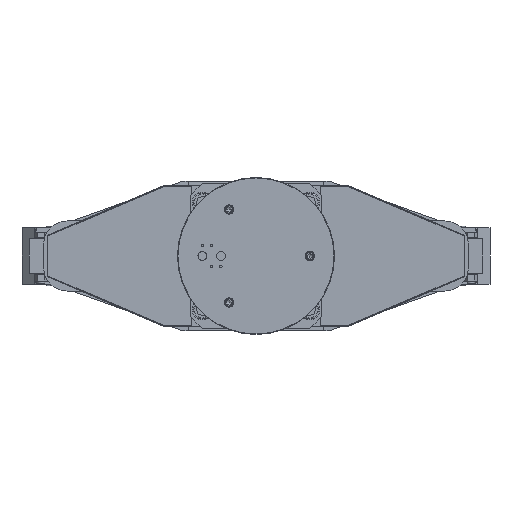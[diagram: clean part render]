
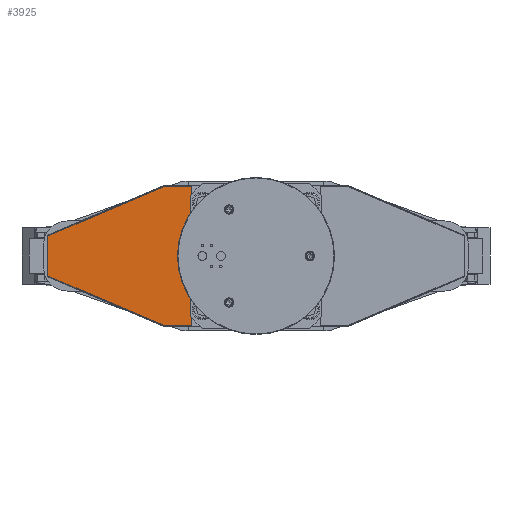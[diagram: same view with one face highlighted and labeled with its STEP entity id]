
A CAD part, left-side view. The second image highlights one B-rep face of the part: STEP entity #3925.
In plain terms, the highlighted planar face has unit normal (-1, 0, 0).
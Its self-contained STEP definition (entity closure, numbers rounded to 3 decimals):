
#3925=ADVANCED_FACE('',(#13219),#13220,.T.);
#13219=FACE_OUTER_BOUND('',#24612,.T.);
#13220=PLANE('',#24613);
#24612=EDGE_LOOP('',(#57248,#57249,#57250,#57251,#57252,#57253));
#24613=AXIS2_PLACEMENT_3D('',#57254,#57255,#57256);
#57248=ORIENTED_EDGE('',*,*,#75824,.T.);
#57249=ORIENTED_EDGE('',*,*,#76485,.F.);
#57250=ORIENTED_EDGE('',*,*,#75833,.T.);
#57251=ORIENTED_EDGE('',*,*,#75836,.T.);
#57252=ORIENTED_EDGE('',*,*,#77447,.T.);
#57253=ORIENTED_EDGE('',*,*,#75837,.F.);
#57254=CARTESIAN_POINT('',(-1285.15,291.744,-57.423));
#57255=DIRECTION('',(-1.,0.,0.));
#57256=DIRECTION('',(0.,-1.,0.));
#75824=EDGE_CURVE('',#93957,#93958,#93959,.T.);
#75833=EDGE_CURVE('',#93911,#93973,#93974,.T.);
#75836=EDGE_CURVE('',#93973,#93976,#93978,.T.);
#75837=EDGE_CURVE('',#93957,#93979,#93980,.T.);
#76485=EDGE_CURVE('',#93911,#93958,#94948,.T.);
#77447=EDGE_CURVE('',#93976,#93979,#96230,.T.);
#93911=VERTEX_POINT('',#136288);
#93957=VERTEX_POINT('',#136353);
#93958=VERTEX_POINT('',#136354);
#93959=LINE('',#136355,#136356);
#93973=VERTEX_POINT('',#136378);
#93974=LINE('',#136379,#136380);
#93976=VERTEX_POINT('',#136383);
#93978=LINE('',#136386,#136387);
#93979=VERTEX_POINT('',#136388);
#93980=LINE('',#136389,#136390);
#94948=LINE('',#137683,#137684);
#96230=LINE('',#139607,#139608);
#136288=CARTESIAN_POINT('',(-1285.15,445.719,-57.423));
#136353=CARTESIAN_POINT('',(-1285.15,195.719,134.277));
#136354=CARTESIAN_POINT('',(-1285.15,445.719,27.977));
#136355=CARTESIAN_POINT('',(-1285.15,333.396,75.737));
#136356=VECTOR('',#159349,10.);
#136378=CARTESIAN_POINT('',(-1285.15,195.719,-163.723));
#136379=CARTESIAN_POINT('',(-1285.15,318.02,-111.721));
#136380=VECTOR('',#159358,10.);
#136383=CARTESIAN_POINT('',(-1285.15,137.769,-163.723));
#136386=CARTESIAN_POINT('',(-1285.15,137.769,-163.723));
#136387=VECTOR('',#159361,10.);
#136388=CARTESIAN_POINT('',(-1285.15,137.769,134.277));
#136389=CARTESIAN_POINT('',(-1285.15,137.769,134.277));
#136390=VECTOR('',#159362,10.);
#137683=CARTESIAN_POINT('',(-1285.15,445.719,-57.423));
#137684=VECTOR('',#160654,10.);
#139607=CARTESIAN_POINT('',(-1285.15,137.769,-57.423));
#139608=VECTOR('',#162256,10.);
#159349=DIRECTION('',(0.,0.92,-0.391));
#159358=DIRECTION('',(0.,-0.92,-0.391));
#159361=DIRECTION('',(0.,-1.,0.));
#159362=DIRECTION('',(0.,-1.,0.));
#160654=DIRECTION('',(0.,0.,1.));
#162256=DIRECTION('',(0.,0.,1.));
